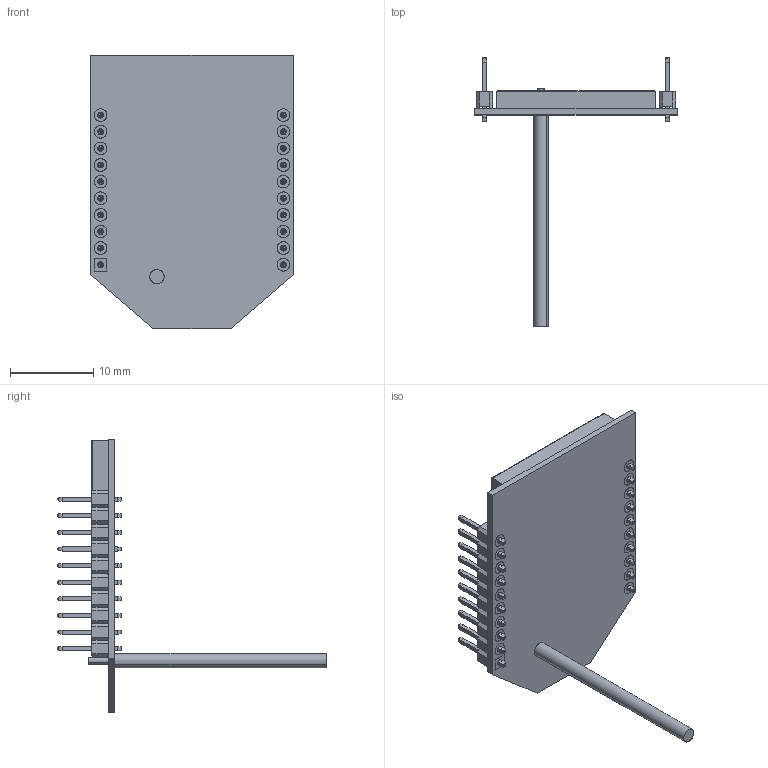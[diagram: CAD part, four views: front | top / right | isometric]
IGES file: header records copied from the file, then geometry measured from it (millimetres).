
Start section: SolidWorks IGES file using analytic representation for surfaces
Global section: file name: C:\Users\jroberts\Desktop\XBPro-Whip.IGS; native system: SolidWorks 2011; preprocessor: SolidWorks 2011; author: jroberts; date: 110314.162004; units: inch
Bounding box: 24.38 x 32.26 x 32.94 mm (x, y, z)
Surface area: 3529.6 mm2 (no closed solid volume)
Topology: 0 solids, 0 shells, 1149 faces, 8492 edges, 8492 vertices
Faces by surface type: bspline 745, revolution 404
